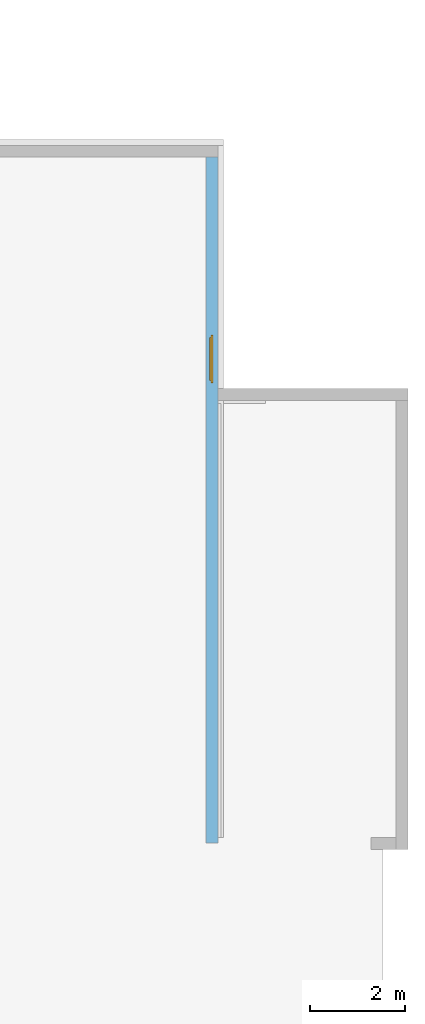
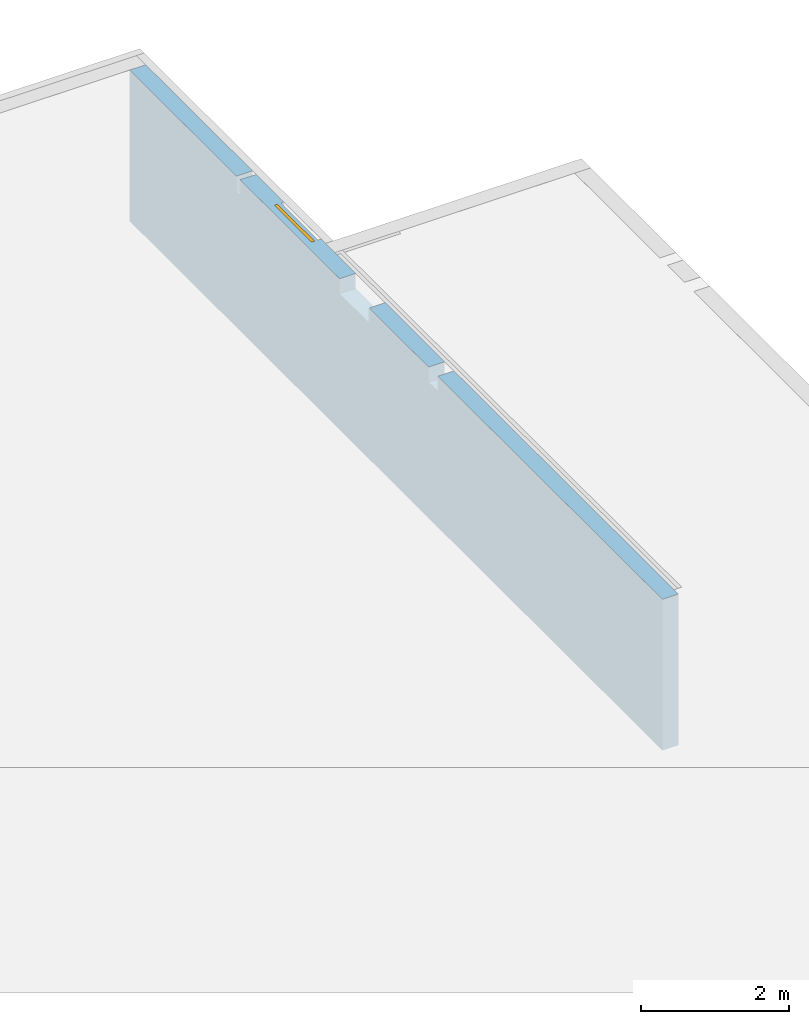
# One storey, part 10 of 10: 1 window, 4 openings, plus 1 element that does not belong to this part.
"""IFC2X3 building model written with IfcOpenShell, lengths in millimetres."""

from ifc_helpers import new_model, entity, si_unit, converted_unit, frame, frame_2d, origin, origin_with_axes, place, context, subcontext, project, spatial, rectangle, extrude, faceted_brep, material, layer, layer_set, layer_usage, type_object, element, fill, save


model = new_model("IFC2X3")

# Units and contexts
model_context = context("Model", 3, precision=1e-05, world=origin())
body_context = subcontext(model_context, "Body", "Model", "MODEL_VIEW")
ifc_project = project(units=[si_unit("LENGTHUNIT", "METRE", prefix="MILLI"), converted_unit("PLANEANGLEUNIT", "DEGREE", entity("IfcPlaneAngleMeasure", 0.0174532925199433), si_unit("PLANEANGLEUNIT", "RADIAN"), dimensions=[0, 0, 0, 0, 0, 0, 0]), si_unit("AREAUNIT", "SQUARE_METRE"), si_unit("VOLUMEUNIT", "CUBIC_METRE")], contexts=[model_context])

# Building, storey
building_placement = place(None, origin())
building = spatial("IfcBuilding", under=ifc_project, at=building_placement, Name="Gebäude", CompositionType="ELEMENT")
storey_placement = place(building_placement, frame((0.0, 0.0, -3205.0), z_axis=(0.0, 0.0, 1.0), x_axis=(1.0, 0.0, 0.0)))
storey = spatial("IfcBuildingStorey", under=building, at=storey_placement, Name="KG.- Grundriss", CompositionType="ELEMENT", Elevation=-3205.0)

# Wall, openings, window
ifc_material_1 = material(Name="Stb-Wand")
ifc_layer = layer(ifc_material_1, 250.0)
ifc_layer_set = layer_set([ifc_layer])
ifc_layer_usage = layer_usage(ifc_layer_set, "AXIS2", "POSITIVE", 0.0)
wall_placement = place(storey_placement, frame((276122.6842014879, 127555.0661829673, 3205.0), z_axis=(0.0, 0.0, 1.0), x_axis=(-4.03519313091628e-15, -0.9999999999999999, 0.0)))
wall = element("IfcWallStandardCase", 1, at=wall_placement, inside=storey, material=ifc_layer_usage, Name="<Unnamed Element>", context=body_context, shape_type="SweptSolid", body=[
    extrude(rectangle(XDim=14425.00000000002, YDim=250.0, at=frame_2d((7212.500000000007, 125.0), x_axis=(1.0, 0.0))), origin_with_axes(), (0.0, 0.0, 1.0), 2500.0),
])
opening_1_placement = place(wall_placement, frame((3740.0, 0.0, 1899.99), z_axis=(0.0, 1.0, 0.0), x_axis=(0.0, 0.0, 1.0)))
opening_1 = element("IfcOpeningElement", 2, at=opening_1_placement, cuts=wall, Name="Fensteröffnung", ObjectType="Opening", context=body_context, shape_type="Brep", body=[
    faceted_brep([(0.009999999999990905, 1.455191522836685e-11, 250.0), (0.009999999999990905, 1.455191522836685e-11, 199.4999999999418), (0.009999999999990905, 1010.000000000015, 199.4999999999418), (0.009999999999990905, 1010.000000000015, 250.0), (600.01, 1.455191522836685e-11, 199.4999999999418), (600.01, 1.455191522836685e-11, 250.0), (600.01, 1010.000000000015, 250.0), (600.01, 1010.000000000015, 199.4999999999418), (0.009999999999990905, 1.455191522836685e-11, 199.4999999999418), (0.009999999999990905, 1.455191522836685e-11, 250.0), (600.01, 1.455191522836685e-11, 250.0), (600.01, 1.455191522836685e-11, 199.4999999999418), (0.009999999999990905, 1010.000000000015, 199.4999999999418), (0.009999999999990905, 1.455191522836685e-11, 199.4999999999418), (600.01, 1.455191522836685e-11, 199.4999999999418), (600.01, 1010.000000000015, 199.4999999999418), (0.009999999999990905, 1010.000000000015, 250.0), (0.009999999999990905, 1010.000000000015, 199.4999999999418), (600.01, 1010.000000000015, 199.4999999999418), (600.01, 1010.000000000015, 250.0), (0.009999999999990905, 1.455191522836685e-11, 250.0), (0.009999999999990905, 1010.000000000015, 250.0), (600.01, 1010.000000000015, 250.0), (600.01, 1.455191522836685e-11, 250.0)], [[[0, 1, 2, 3]], [[4, 5, 6, 7]], [[8, 9, 10, 11]], [[12, 13, 14, 15]], [[16, 17, 18, 19]], [[20, 21, 22, 23]]], orient=[[False], [False], [False], [False], [False], [False]]),
])
opening_2_placement = place(wall_placement, frame((5685.000003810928, -5.820766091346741e-11, 2250.0), z_axis=(0.0, 1.0, 0.0), x_axis=(0.0, 0.0, 1.0)))
element("IfcOpeningElement", 3, at=opening_2_placement, cuts=wall, Name="Wanddurchbruch", ObjectType="Recess", context=body_context, shape_type="SweptSolid", body=[
    extrude(rectangle(XDim=250.0, YDim=800.0, at=frame_2d((125.0, 400.0), x_axis=(1.0, 0.0))), origin_with_axes(), (0.0, 0.0, 1.0), 250.0000000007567),
])
opening_3_placement = place(wall_placement, frame((8095.000003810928, 2.682267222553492e-06, 2250.0), z_axis=(0.0, 1.0, 0.0), x_axis=(0.0, 0.0, 1.0)))
element("IfcOpeningElement", 4, at=opening_3_placement, cuts=wall, Name="Wanddurchbruch", ObjectType="Recess", context=body_context, shape_type="SweptSolid", body=[
    extrude(rectangle(XDim=250.0, YDim=250.0, at=frame_2d((125.0, 125.0), x_axis=(1.0, 0.0))), origin_with_axes(), (0.0, 0.0, 1.0), 250.0000001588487),
])
opening_4_placement = place(wall_placement, frame((2890.085368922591, -5.820766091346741e-11, 2250.0), z_axis=(0.0, 1.0, 0.0), x_axis=(0.0, 0.0, 1.0)))
element("IfcOpeningElement", 5, at=opening_4_placement, cuts=wall, Name="Wanddurchbruch", ObjectType="Recess", context=body_context, shape_type="SweptSolid", body=[
    extrude(rectangle(XDim=250.0, YDim=100.0, at=frame_2d((125.0, 50.0), x_axis=(1.0, 0.0))), origin_with_axes(), (0.0, 0.0, 1.0), 250.0000000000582),
])
ifc_material_2 = material()
window_style = type_object("IfcWindowStyle", Name="Fenster", ConstructionType="NOTDEFINED", OperationType="SINGLE_PANEL", ParameterTakesPrecedence=False, Sizeable=False)
window_placement = place(opening_1_placement, frame((0.0, 0.0, 100.0), z_axis=(1.0, 0.0, 0.0), x_axis=(0.0, 1.0, 0.0)))
window = element("IfcWindow", 6, at=window_placement, inside=storey, type_object=window_style, material=ifc_material_2, Name="Fenster", OverallHeight=600.0, OverallWidth=1010.0, context=body_context, shape_type="Brep", body=[
    faceted_brep([(49.99999999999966, -3.843370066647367e-12, 0.009999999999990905), (-3.410605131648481e-13, -4.04209998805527e-12, 0.009999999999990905), (-3.410605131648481e-13, -4.04209998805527e-12, 600.01), (49.99999999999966, -3.843370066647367e-12, 600.01), (-5.684341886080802e-13, 49.99999999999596, 0.009999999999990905), (49.99999999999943, 49.99999999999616, 0.009999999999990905), (49.99999999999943, 49.99999999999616, 600.01), (-5.684341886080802e-13, 49.99999999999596, 600.01), (-3.410605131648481e-13, -4.04209998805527e-12, 0.009999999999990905), (49.99999999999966, -3.843370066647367e-12, 0.009999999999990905), (49.99999999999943, 49.99999999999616, 0.009999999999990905), (-5.684341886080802e-13, 49.99999999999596, 0.009999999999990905), (-3.410605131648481e-13, -4.04209998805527e-12, 600.01), (-3.410605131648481e-13, -4.04209998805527e-12, 0.009999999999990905), (-5.684341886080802e-13, 49.99999999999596, 0.009999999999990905), (-5.684341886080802e-13, 49.99999999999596, 600.01), (49.99999999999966, -3.843370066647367e-12, 600.01), (-3.410605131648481e-13, -4.04209998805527e-12, 600.01), (-5.684341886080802e-13, 49.99999999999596, 600.01), (49.99999999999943, 49.99999999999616, 600.01), (49.99999999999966, -3.843370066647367e-12, 0.009999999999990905), (49.99999999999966, -3.843370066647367e-12, 600.01), (49.99999999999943, 49.99999999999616, 600.01), (49.99999999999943, 49.99999999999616, 0.009999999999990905)], [[[0, 1, 2, 3]], [[4, 5, 6, 7]], [[8, 9, 10, 11]], [[12, 13, 14, 15]], [[16, 17, 18, 19]], [[20, 21, 22, 23]]], orient=[[False], [False], [False], [False], [False], [False]]),
    faceted_brep([(960.0000000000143, -1.98729921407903e-13, 600.01), (1010.000000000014, 0.0, 600.01), (1010.000000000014, 0.0, 0.009999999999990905), (960.0000000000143, -1.98729921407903e-13, 0.009999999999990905), (1010.000000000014, 50.0, 600.01), (960.0000000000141, 49.9999999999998, 600.01), (960.0000000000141, 49.9999999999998, 0.009999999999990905), (1010.000000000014, 50.0, 0.009999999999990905), (1010.000000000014, 0.0, 600.01), (960.0000000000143, -1.98729921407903e-13, 600.01), (960.0000000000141, 49.9999999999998, 600.01), (1010.000000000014, 50.0, 600.01), (1010.000000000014, 0.0, 0.009999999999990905), (1010.000000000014, 0.0, 600.01), (1010.000000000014, 50.0, 600.01), (1010.000000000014, 50.0, 0.009999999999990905), (960.0000000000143, -1.98729921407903e-13, 0.009999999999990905), (1010.000000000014, 0.0, 0.009999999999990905), (1010.000000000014, 50.0, 0.009999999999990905), (960.0000000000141, 49.9999999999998, 0.009999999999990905), (960.0000000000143, -1.98729921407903e-13, 600.01), (960.0000000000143, -1.98729921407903e-13, 0.009999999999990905), (960.0000000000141, 49.9999999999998, 0.009999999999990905), (960.0000000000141, 49.9999999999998, 600.01)], [[[0, 1, 2, 3]], [[4, 5, 6, 7]], [[8, 9, 10, 11]], [[12, 13, 14, 15]], [[16, 17, 18, 19]], [[20, 21, 22, 23]]], orient=[[False], [False], [False], [False], [False], [False]]),
    faceted_brep([(960.0000000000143, -1.70308211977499e-13, 50.00999999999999), (960.0000000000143, -1.70308211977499e-13, 0.009999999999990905), (49.99999999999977, -3.786526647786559e-12, 0.009999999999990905), (49.99999999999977, -3.786526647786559e-12, 50.00999999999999), (960.0000000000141, 49.99999999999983, 0.009999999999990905), (960.0000000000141, 49.99999999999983, 50.00999999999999), (49.99999999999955, 49.99999999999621, 50.00999999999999), (49.99999999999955, 49.99999999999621, 0.009999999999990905), (960.0000000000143, -1.70308211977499e-13, 0.009999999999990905), (960.0000000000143, -1.70308211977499e-13, 50.00999999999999), (960.0000000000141, 49.99999999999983, 50.00999999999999), (960.0000000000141, 49.99999999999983, 0.009999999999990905), (49.99999999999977, -3.786526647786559e-12, 0.009999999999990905), (960.0000000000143, -1.70308211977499e-13, 0.009999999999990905), (960.0000000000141, 49.99999999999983, 0.009999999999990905), (49.99999999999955, 49.99999999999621, 0.009999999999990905), (49.99999999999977, -3.786526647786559e-12, 50.00999999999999), (49.99999999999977, -3.786526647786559e-12, 0.009999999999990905), (49.99999999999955, 49.99999999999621, 0.009999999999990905), (49.99999999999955, 49.99999999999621, 50.00999999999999), (960.0000000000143, -1.70308211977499e-13, 50.00999999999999), (49.99999999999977, -3.786526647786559e-12, 50.00999999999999), (49.99999999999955, 49.99999999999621, 50.00999999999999), (960.0000000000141, 49.99999999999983, 50.00999999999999)], [[[0, 1, 2, 3]], [[4, 5, 6, 7]], [[8, 9, 10, 11]], [[12, 13, 14, 15]], [[16, 17, 18, 19]], [[20, 21, 22, 23]]], orient=[[False], [False], [False], [False], [False], [False]]),
    faceted_brep([(49.99999999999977, -3.786526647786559e-12, 550.01), (49.99999999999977, -3.786526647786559e-12, 600.01), (960.0000000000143, -1.70308211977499e-13, 600.01), (960.0000000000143, -1.70308211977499e-13, 550.01), (49.99999999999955, 49.99999999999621, 600.01), (49.99999999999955, 49.99999999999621, 550.01), (960.0000000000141, 49.99999999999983, 550.01), (960.0000000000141, 49.99999999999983, 600.01), (49.99999999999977, -3.786526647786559e-12, 600.01), (49.99999999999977, -3.786526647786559e-12, 550.01), (49.99999999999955, 49.99999999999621, 550.01), (49.99999999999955, 49.99999999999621, 600.01), (960.0000000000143, -1.70308211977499e-13, 600.01), (49.99999999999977, -3.786526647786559e-12, 600.01), (49.99999999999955, 49.99999999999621, 600.01), (960.0000000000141, 49.99999999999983, 600.01), (960.0000000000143, -1.70308211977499e-13, 550.01), (960.0000000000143, -1.70308211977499e-13, 600.01), (960.0000000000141, 49.99999999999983, 600.01), (960.0000000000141, 49.99999999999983, 550.01), (49.99999999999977, -3.786526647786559e-12, 550.01), (960.0000000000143, -1.70308211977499e-13, 550.01), (960.0000000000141, 49.99999999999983, 550.01), (49.99999999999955, 49.99999999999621, 550.01)], [[[0, 1, 2, 3]], [[4, 5, 6, 7]], [[8, 9, 10, 11]], [[12, 13, 14, 15]], [[16, 17, 18, 19]], [[20, 21, 22, 23]]], orient=[[False], [False], [False], [False], [False], [False]]),
    faceted_brep([(960.0000000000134, 24.9999999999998, 550.01), (910.0000000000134, 24.9999999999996, 550.01), (910.0000000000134, 24.9999999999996, 50.00999999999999), (960.0000000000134, 24.9999999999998, 50.00999999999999), (910.0000000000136, -25.0000000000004, 550.01), (960.0000000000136, -25.0000000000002, 550.01), (960.0000000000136, -25.0000000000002, 50.00999999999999), (910.0000000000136, -25.0000000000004, 50.00999999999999), (910.0000000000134, 24.9999999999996, 550.01), (960.0000000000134, 24.9999999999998, 550.01), (960.0000000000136, -25.0000000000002, 550.01), (910.0000000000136, -25.0000000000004, 550.01), (910.0000000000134, 24.9999999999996, 50.00999999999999), (910.0000000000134, 24.9999999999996, 550.01), (910.0000000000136, -25.0000000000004, 550.01), (910.0000000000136, -25.0000000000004, 50.00999999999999), (960.0000000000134, 24.9999999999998, 50.00999999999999), (910.0000000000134, 24.9999999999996, 50.00999999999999), (910.0000000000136, -25.0000000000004, 50.00999999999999), (960.0000000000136, -25.0000000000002, 50.00999999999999), (960.0000000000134, 24.9999999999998, 550.01), (960.0000000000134, 24.9999999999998, 50.00999999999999), (960.0000000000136, -25.0000000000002, 50.00999999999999), (960.0000000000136, -25.0000000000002, 550.01)], [[[0, 1, 2, 3]], [[4, 5, 6, 7]], [[8, 9, 10, 11]], [[12, 13, 14, 15]], [[16, 17, 18, 19]], [[20, 21, 22, 23]]], orient=[[False], [False], [False], [False], [False], [False]]),
    faceted_brep([(50.00000000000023, 24.99999999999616, 50.00999999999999), (100.0000000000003, 24.99999999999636, 50.00999999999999), (100.0000000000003, 24.99999999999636, 550.01), (50.00000000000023, 24.99999999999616, 550.01), (100.0000000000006, -25.00000000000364, 50.00999999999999), (50.00000000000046, -25.00000000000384, 50.00999999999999), (50.00000000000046, -25.00000000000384, 550.01), (100.0000000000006, -25.00000000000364, 550.01), (100.0000000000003, 24.99999999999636, 50.00999999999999), (50.00000000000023, 24.99999999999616, 50.00999999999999), (50.00000000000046, -25.00000000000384, 50.00999999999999), (100.0000000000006, -25.00000000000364, 50.00999999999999), (100.0000000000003, 24.99999999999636, 550.01), (100.0000000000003, 24.99999999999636, 50.00999999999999), (100.0000000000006, -25.00000000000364, 50.00999999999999), (100.0000000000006, -25.00000000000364, 550.01), (50.00000000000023, 24.99999999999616, 550.01), (100.0000000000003, 24.99999999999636, 550.01), (100.0000000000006, -25.00000000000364, 550.01), (50.00000000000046, -25.00000000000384, 550.01), (50.00000000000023, 24.99999999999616, 50.00999999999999), (50.00000000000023, 24.99999999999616, 550.01), (50.00000000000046, -25.00000000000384, 550.01), (50.00000000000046, -25.00000000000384, 50.00999999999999)], [[[0, 1, 2, 3]], [[4, 5, 6, 7]], [[8, 9, 10, 11]], [[12, 13, 14, 15]], [[16, 17, 18, 19]], [[20, 21, 22, 23]]], orient=[[False], [False], [False], [False], [False], [False]]),
    faceted_brep([(910.0000000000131, 24.99999999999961, 50.00999999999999), (910.0000000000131, 24.99999999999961, 100.01), (100.0000000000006, 24.99999999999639, 100.01), (100.0000000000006, 24.99999999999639, 50.00999999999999), (910.0000000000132, -25.00000000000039, 100.01), (910.0000000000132, -25.00000000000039, 50.00999999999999), (100.0000000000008, -25.00000000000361, 50.00999999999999), (100.0000000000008, -25.00000000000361, 100.01), (910.0000000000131, 24.99999999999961, 100.01), (910.0000000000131, 24.99999999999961, 50.00999999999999), (910.0000000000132, -25.00000000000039, 50.00999999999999), (910.0000000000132, -25.00000000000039, 100.01), (100.0000000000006, 24.99999999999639, 100.01), (910.0000000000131, 24.99999999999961, 100.01), (910.0000000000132, -25.00000000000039, 100.01), (100.0000000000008, -25.00000000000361, 100.01), (100.0000000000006, 24.99999999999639, 50.00999999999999), (100.0000000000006, 24.99999999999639, 100.01), (100.0000000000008, -25.00000000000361, 100.01), (100.0000000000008, -25.00000000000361, 50.00999999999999), (910.0000000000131, 24.99999999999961, 50.00999999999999), (100.0000000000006, 24.99999999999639, 50.00999999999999), (100.0000000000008, -25.00000000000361, 50.00999999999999), (910.0000000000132, -25.00000000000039, 50.00999999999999)], [[[0, 1, 2, 3]], [[4, 5, 6, 7]], [[8, 9, 10, 11]], [[12, 13, 14, 15]], [[16, 17, 18, 19]], [[20, 21, 22, 23]]], orient=[[False], [False], [False], [False], [False], [False]]),
    faceted_brep([(100.0000000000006, 24.99999999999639, 550.01), (100.0000000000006, 24.99999999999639, 500.01), (910.0000000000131, 24.99999999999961, 500.01), (910.0000000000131, 24.99999999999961, 550.01), (100.0000000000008, -25.00000000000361, 500.01), (100.0000000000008, -25.00000000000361, 550.01), (910.0000000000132, -25.00000000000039, 550.01), (910.0000000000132, -25.00000000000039, 500.01), (100.0000000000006, 24.99999999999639, 500.01), (100.0000000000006, 24.99999999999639, 550.01), (100.0000000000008, -25.00000000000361, 550.01), (100.0000000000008, -25.00000000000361, 500.01), (910.0000000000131, 24.99999999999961, 500.01), (100.0000000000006, 24.99999999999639, 500.01), (100.0000000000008, -25.00000000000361, 500.01), (910.0000000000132, -25.00000000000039, 500.01), (910.0000000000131, 24.99999999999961, 550.01), (910.0000000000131, 24.99999999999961, 500.01), (910.0000000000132, -25.00000000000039, 500.01), (910.0000000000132, -25.00000000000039, 550.01), (100.0000000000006, 24.99999999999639, 550.01), (910.0000000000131, 24.99999999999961, 550.01), (910.0000000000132, -25.00000000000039, 550.01), (100.0000000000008, -25.00000000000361, 550.01)], [[[0, 1, 2, 3]], [[4, 5, 6, 7]], [[8, 9, 10, 11]], [[12, 13, 14, 15]], [[16, 17, 18, 19]], [[20, 21, 22, 23]]], orient=[[False], [False], [False], [False], [False], [False]]),
    faceted_brep([(910.000000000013, -3.836930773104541e-13, 500.01), (910.000000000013, -3.836930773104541e-13, 100.01), (100.0000000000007, -3.602451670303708e-12, 100.01), (100.0000000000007, -3.602451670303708e-12, 500.01), (910.000000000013, 0.9999999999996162, 500.01), (100.0000000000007, 0.9999999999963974, 500.01), (100.0000000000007, 0.9999999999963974, 100.01), (910.000000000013, 0.9999999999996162, 100.01), (910.000000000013, -3.836930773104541e-13, 500.01), (910.000000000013, 0.9999999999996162, 500.01), (910.000000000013, 0.9999999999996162, 100.01), (910.000000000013, -3.836930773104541e-13, 100.01), (910.000000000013, -3.836930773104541e-13, 100.01), (910.000000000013, 0.9999999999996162, 100.01), (100.0000000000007, 0.9999999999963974, 100.01), (100.0000000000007, -3.602451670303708e-12, 100.01), (100.0000000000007, -3.602451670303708e-12, 100.01), (100.0000000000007, 0.9999999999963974, 100.01), (100.0000000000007, 0.9999999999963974, 500.01), (100.0000000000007, -3.602451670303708e-12, 500.01), (100.0000000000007, -3.602451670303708e-12, 500.01), (100.0000000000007, 0.9999999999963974, 500.01), (910.000000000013, 0.9999999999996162, 500.01), (910.000000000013, -3.836930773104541e-13, 500.01)], [[[0, 1, 2, 3]], [[4, 5, 6, 7]], [[8, 9, 10, 11]], [[12, 13, 14, 15]], [[16, 17, 18, 19]], [[20, 21, 22, 23]]], orient=[[False], [False], [False], [False], [False], [False]]),
])
fill(opening_1, window)

save(model, "model.ifc")
